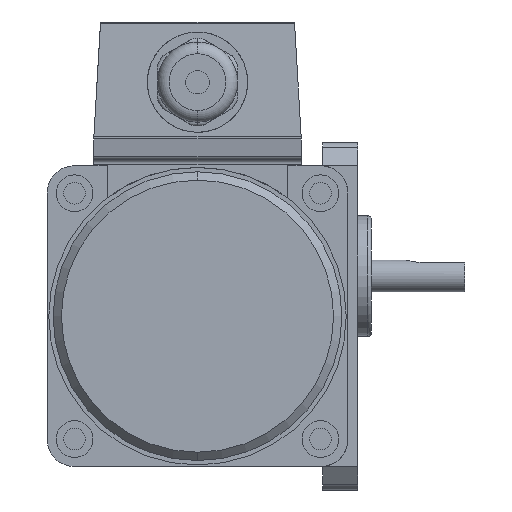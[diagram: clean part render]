
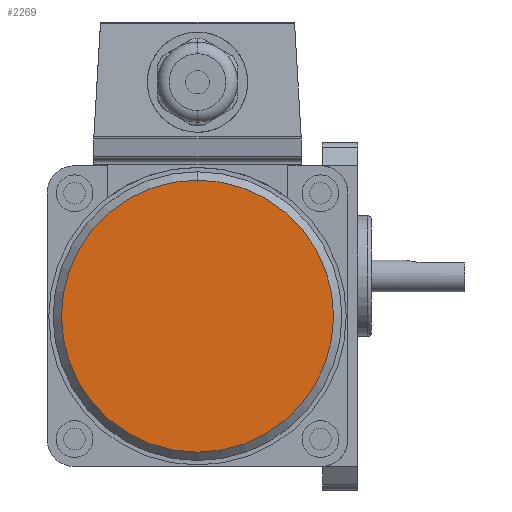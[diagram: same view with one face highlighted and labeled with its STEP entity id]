
A CAD part, left-side view. The second image highlights one B-rep face of the part: STEP entity #2269.
In plain terms, the highlighted planar face has unit normal (-1, 0, 0).
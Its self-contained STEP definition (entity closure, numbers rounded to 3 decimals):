
#2249=CARTESIAN_POINT('POINT670756',(-173.,48.,28.7));
#2250=VERTEX_POINT('VERTEX670756',#2249);
#2251=CARTESIAN_POINT('POINT670757',(-173.,48.,-52.7));
#2252=VERTEX_POINT('VERTEX670757',#2251);
#2253=CARTESIAN_POINT('POS1106614',(-173.,48.,-12.));
#2254=DIRECTION('DIR1633411',(1.,0.,0.));
#2255=DIRECTION('DIR1633412',(0.,0.,1.));
#2256=AXIS2_PLACEMENT_3D('AXIS526798',#2253,#2254,#2255);
#2257=CIRCLE('ELLIPSE229156',#2256,40.7);
#2258=EDGE_CURVE('EDGE1034004',#2250,#2252,#2257,.T.);
#2259=ORIENTED_EDGE('COEDGE2068553',*,*,#2258,.F.);
#2260=EDGE_CURVE('EDGE1034005',#2252,#2250,#2257,.T.);
#2261=ORIENTED_EDGE('COEDGE2068554',*,*,#2260,.F.);
#2262=EDGE_LOOP('NONE',(#2259,#2261));
#2263=FACE_BOUND('LOOP1',#2262,.T.);
#2264=CARTESIAN_POINT('POS1106615',(-173.,48.,
   8.35));
#2265=DIRECTION('DIR1633413',(-1.,0.,0.));
#2266=DIRECTION('DIR1633414',(0.,1.,0.));
#2267=AXIS2_PLACEMENT_3D('AXIS526799',#2264,#2265,#2266);
#2268=PLANE('PLANE195650',#2267);
#2269=ADVANCED_FACE('FACE412344',(#2263),#2268,.T.);
